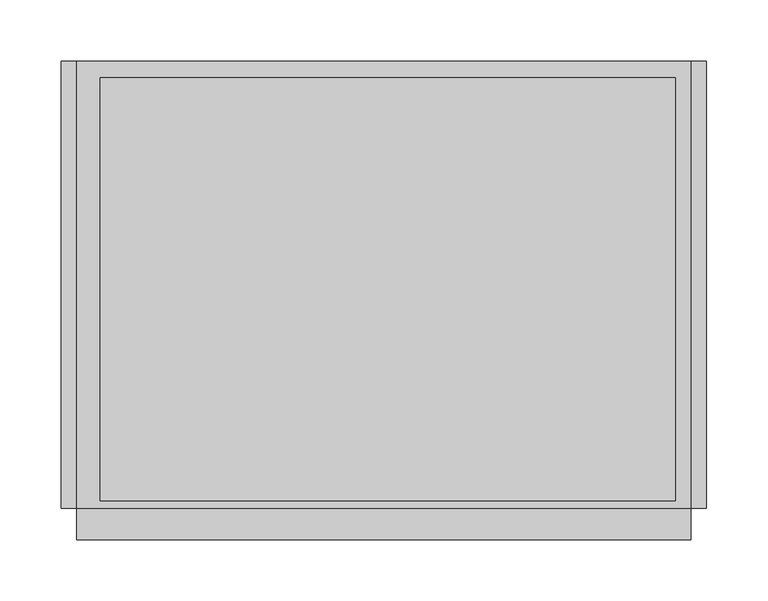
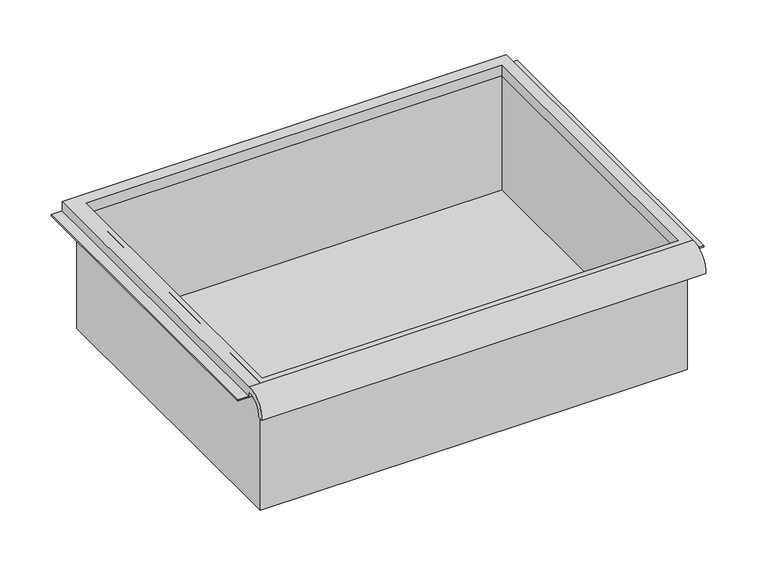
"""IFC4 building model written with IfcOpenShell, lengths in millimetres: furniture geometry."""

from ifc_helpers import new_model, si_unit, frame, origin, place, context, project, spatial, polyline, circle_curve, faceted_brep, source, transform, mapped, element, save
from ifc_brep_helpers import plane_surface, cylinder_surface, revolved_surface, advanced_brep


def furniture_57344b34(model_context):
    return source(origin(), model_context, "Body", "SolidModel", [
        advanced_brep(
        [(263.7474999, -195.297482, 708.8199118), (263.7474999, -188.9125, 708.8199118), (263.7474999, -169.8625, 727.081385), (263.7474999, -169.8625, 720.7313846), (263.7474999, 195.2625, 720.7313846), (263.7474999, 195.2625, 733.431385), (263.7474999, -169.8625, 733.431385), (-237.9025001, -195.297482, 708.8199118), (-237.9025001, -169.8625, 733.431385), (-237.9025001, 195.2625, 733.431385), (-237.9025001, 195.2625, 720.7313846), (-237.9025001, -169.8625, 720.7313846), (-237.9025001, -169.8625, 727.081385), (-237.9025001, -188.9125, 708.8199118), (251.0474878, 181.9275, 720.7313846), (-218.8095642, 181.9275, 720.7313846), (-218.8095642, -163.5125, 720.7313846), (251.0474878, -163.5125, 720.7313846), (-218.8095642, 181.9275, 733.431385), (251.0474878, 181.9275, 733.431385), (251.0474878, -163.5125, 733.431385), (-218.8095642, -163.5125, 733.431385)],
        [
            (0, 1),
            (1, 2, circle_curve(frame((263.7474999, -172.3404634, 710.5993222), z_axis=(-1.0, 0.0, 0.0), x_axis=(0.0, 1.0, 0.0)), 16.6672942)),
            (2, 3),
            (3, 4),
            (4, 5),
            (5, 6),
            (6, 0, circle_curve(frame((263.7474999, -172.4601678, 710.6672122), z_axis=(1.0, 0.0, 0.0), x_axis=(0.0, 1.0, 0.0)), 22.9119061)),
            (7, 8, circle_curve(frame((-237.9025001, -172.4601678, 710.6672122), z_axis=(-1.0, 0.0, 0.0), x_axis=(0.0, 1.0, 0.0)), 22.9119061)),
            (8, 9),
            (9, 10),
            (10, 11),
            (11, 12),
            (12, 13, circle_curve(frame((-237.9025001, -172.3404634, 710.5993222), z_axis=(1.0, 0.0, 0.0), x_axis=(0.0, 1.0, 0.0)), 16.6672942)),
            (13, 7),
            (0, 7),
            (13, 1),
            (12, 2),
            (11, 3),
            (10, 4),
            (14, 15),
            (15, 16),
            (16, 17),
            (17, 14),
            (9, 5),
            (8, 6),
            (18, 19),
            (19, 20),
            (20, 21),
            (21, 18),
            (14, 19),
            (18, 15),
            (21, 16),
            (20, 17),
        ],
        [
            plane_surface(frame((263.7474999, -195.297482, 708.8199118), z_axis=(1.0, 0.0, 0.0), x_axis=(0.0, 1.0, 0.0))),
            plane_surface(frame((-237.9025001, -195.297482, 708.8199118), z_axis=(-1.0, 0.0, 0.0), x_axis=(0.0, -1.0, 0.0))),
            plane_surface(frame((263.7474999, -195.297482, 708.8199118), z_axis=(0.0, 0.0, -1.0), x_axis=(-1.0, 0.0, 0.0))),
            revolved_surface(polyline([(-237.9025001, -155.67316920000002, 710.5993222), (263.7474999, -155.67316920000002, 710.5993222)]), (-237.9025001, -172.3404634, 710.5993222), (-1.0, 0.0, 0.0)),
            plane_surface(frame((263.7474999, -169.8625, 727.081385), z_axis=(0.0, -1.0, 0.0), x_axis=(-1.0, 0.0, 0.0))),
            plane_surface(frame((263.7474999, -169.8625, 720.7313846), z_axis=(0.0, 0.0, -1.0), x_axis=(-1.0, 0.0, 0.0))),
            plane_surface(frame((263.7474999, 195.2625, 720.7313846), z_axis=(0.0, 1.0, 0.0), x_axis=(-1.0, 0.0, 0.0))),
            plane_surface(frame((263.7474999, 195.2625, 733.431385), z_axis=(0.0, 0.0, 1.0), x_axis=(-1.0, 0.0, 0.0))),
            cylinder_surface(frame((-237.9025001, -172.4601678, 710.6672122), z_axis=(1.0, 0.0, 0.0), x_axis=(0.0, 1.0, 0.0)), 22.9119061),
            plane_surface(frame((251.0474878, 181.9275, 733.431385), z_axis=(0.0, -1.0, 0.0), x_axis=(0.0, 0.0, -1.0))),
            plane_surface(frame((-218.8095642, 181.9275, 733.431385), z_axis=(1.0, 0.0, 0.0), x_axis=(0.0, 0.0, -1.0))),
            plane_surface(frame((-218.8095642, -163.5125, 733.431385), z_axis=(0.0, 1.0, 0.0), x_axis=(0.0, 0.0, -1.0))),
            plane_surface(frame((251.0474878, -163.5125, 733.431385), z_axis=(-1.0, 0.0, 0.0), x_axis=(0.0, 0.0, -1.0))),
        ],
        [
            (0, [[1, 2, 3, 4, 5, 6, 7]]),
            (1, [[8, 9, 10, 11, 12, 13, 14]]),
            (2, [[-1, 15, -14, 16]]),
            (3, [[-2, -16, -13, 17]]),
            (4, [[-3, -17, -12, 18]]),
            (5, [[-4, -18, -11, 19], [20, 21, 22, 23]]),
            (6, [[-5, -19, -10, 24]]),
            (7, [[-6, -24, -9, 25], [26, 27, 28, 29]]),
            (8, [[-7, -25, -8, -15]]),
            (9, [[30, -26, 31, -20]]),
            (10, [[-31, -29, 32, -21]]),
            (11, [[-32, -28, 33, -22]]),
            (12, [[-30, -23, -33, -27]]),
        ],
    ),
        faceted_brep([(-225.2025001, -169.8625, 581.031385), (257.3974878, -169.8625, 581.031385), (257.3974878, -169.8625, 733.431385), (-225.2025001, -169.8625, 733.431385), (-225.2025001, 188.9125, 581.031385), (-225.2025001, 188.9125, 733.431385), (257.3974878, 188.9125, 733.431385), (257.3974878, 188.9125, 581.031385), (-218.8095642, 181.9275, 733.431385), (251.0474878, 181.9275, 733.431385), (251.0474878, -163.5125, 733.431385), (-218.8095642, -163.5125, 733.431385), (251.0474878, 181.9275, 584.206385), (-218.8095642, 181.9275, 584.206385), (-218.8095642, -163.5125, 584.206385), (251.0474878, -163.5125, 584.206385)], [[[0, 1, 2, 3]], [[4, 5, 6, 7]], [[1, 0, 4, 7]], [[2, 1, 7, 6]], [[3, 2, 6, 5], [8, 9, 10, 11]], [[0, 3, 5, 4]], [[12, 13, 14, 15]], [[13, 12, 9, 8]], [[14, 13, 8, 11]], [[15, 14, 11, 10]], [[12, 15, 10, 9]]]),
        faceted_brep([(-250.6025001, 195.2625, 720.7313846), (-250.6025001, 195.2625, 722.3188846), (-231.5525001, 195.2625, 722.3188846), (-231.5525001, 195.2625, 720.7313846), (-250.6025001, -169.8625, 720.7313846), (-231.5525001, -169.8625, 720.7313846), (-231.5525001, -169.8625, 722.3188846), (-250.6025001, -169.8625, 722.3188846)], [[[0, 1, 2, 3]], [[4, 5, 6, 7]], [[1, 0, 4, 7]], [[2, 1, 7, 6]], [[3, 2, 6, 5]], [[0, 3, 5, 4]]]),
        faceted_brep([(276.4474999, 195.2625, 720.7313846), (263.7474999, 195.2625, 720.7313846), (263.7474999, 195.2625, 722.3188846), (276.4474999, 195.2625, 722.3188846), (276.4474999, -169.8625, 720.7313846), (276.4474999, -169.8625, 722.3188846), (263.7474999, -169.8625, 722.3188846), (263.7474999, -169.8625, 720.7313846)], [[[0, 1, 2, 3]], [[4, 5, 6, 7]], [[1, 0, 4, 7]], [[2, 1, 7, 6]], [[3, 2, 6, 5]], [[0, 3, 5, 4]]]),
    ])


if __name__ == "__main__":
    model = new_model("IFC4")
    model_context = context("Model", 3, world=origin())
    ifc_project = project(units=[si_unit("LENGTHUNIT", "METRE", prefix="MILLI")], contexts=[model_context])
    site = spatial("IfcSite", under=ifc_project)
    building = spatial("IfcBuilding", under=site)
    placement = place(None, origin())
    furniture_shape = furniture_57344b34(model_context)
    element("IfcFurniture", 1, ObjectType="HermanMiller_Carts_CT501_Drawer : 6\"H x 15\"D x 20\"W", at=placement, inside=building, context=model_context, shape_type="MappedRepresentation", body=[
        mapped(furniture_shape, transform((0.0, 0.0, 0.0), x_axis=(1.0, 0.0, 0.0), y_axis=(0.0, 1.0, 0.0), z_axis=(0.0, 0.0, 1.0))),
    ])
    save(model, "model.ifc")
